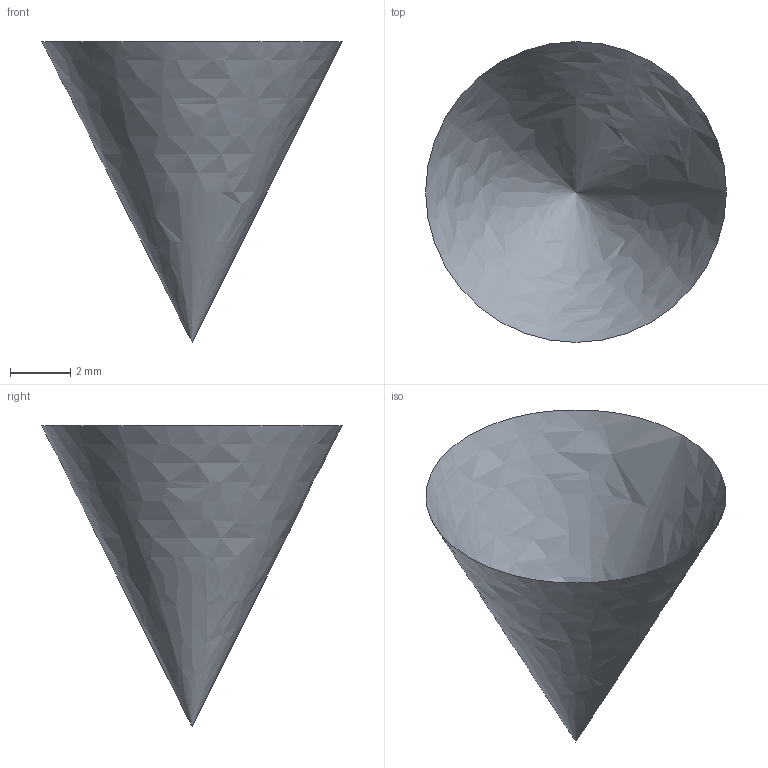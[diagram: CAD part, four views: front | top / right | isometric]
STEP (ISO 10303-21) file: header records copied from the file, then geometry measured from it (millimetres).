
FILE_DESCRIPTION(('BRL-CAD AP214 spline pole vertex-loop fixture'),'2;1');
FILE_NAME('ap214_vertex_loop_spline_pole.stp','2026-08-04T00:00:00',('BRL-CAD'),('BRL-CAD'),'','','');
FILE_SCHEMA(('AUTOMOTIVE_DESIGN { 1 0 10303 214 3 1 1 1 }'));
Length unit declared in the file: metre
Products named in the file (1): vertex_loop_spline_pole
Bounding box: 10 x 10 x 10 mm (x, y, z)
Surface area: 175.6 mm2 (no closed solid volume)
Topology: 0 solids, 1 shells, 1 faces, 3 edges, 2 vertices
Faces by surface type: bspline 1
Entity records: 36 total; most frequent: CARTESIAN_POINT 10, VERTEX_POINT 2, DIRECTION 2, FACE_BOUND 2, AXIS2_PLACEMENT_3D 1, CIRCLE 1, EDGE_CURVE 1, ORIENTED_EDGE 1
